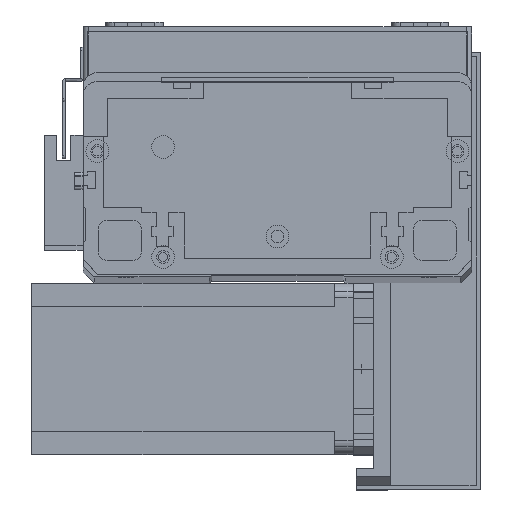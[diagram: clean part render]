
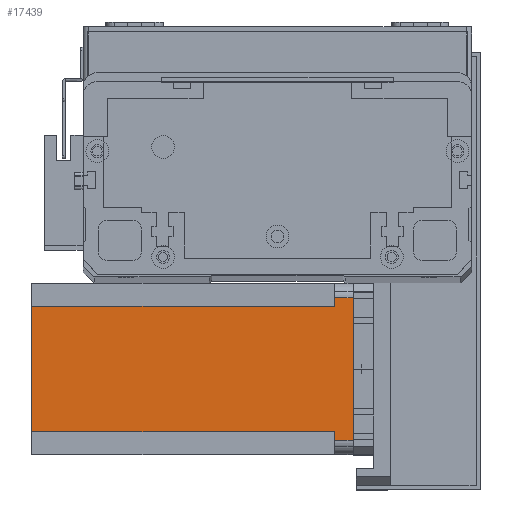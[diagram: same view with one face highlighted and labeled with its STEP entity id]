
A CAD part, top view. The second image highlights one B-rep face of the part: STEP entity #17439.
In plain terms, the highlighted planar face has unit normal (0, 0, 1) as drawn and (0, -1, 0) by its records, which use the part's own axes.
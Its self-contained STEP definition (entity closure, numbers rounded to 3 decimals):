
#257 = VECTOR ( 'NONE', #15410, 1000. ) ;
#527 = LINE ( 'NONE', #2124, #12629 ) ;
#845 = ORIENTED_EDGE ( 'NONE', *, *, #5220, .F. ) ;
#937 = VECTOR ( 'NONE', #1038, 1000. ) ;
#952 = VERTEX_POINT ( 'NONE', #19251 ) ;
#1038 = DIRECTION ( 'NONE',  ( 0., 0., 1. ) ) ;
#1093 = VERTEX_POINT ( 'NONE', #19840 ) ;
#1796 = ORIENTED_EDGE ( 'NONE', *, *, #3086, .F. ) ;
#2124 = CARTESIAN_POINT ( 'NONE',  ( 8., 0., -112.5 ) ) ;
#2369 = CARTESIAN_POINT ( 'NONE',  ( 0., 0., -112.5 ) ) ;
#2913 = DIRECTION ( 'NONE',  ( 1., 0., 0. ) ) ;
#2987 = ORIENTED_EDGE ( 'NONE', *, *, #23403, .F. ) ;
#3086 = EDGE_CURVE ( 'NONE', #11232, #1093, #25508, .T. ) ;
#3751 = DIRECTION ( 'NONE',  ( 0., 0., -1. ) ) ;
#3900 = DIRECTION ( 'NONE',  ( -1., 0., 0. ) ) ;
#4665 = DIRECTION ( 'NONE',  ( 0., 0., -1. ) ) ;
#4761 = ORIENTED_EDGE ( 'NONE', *, *, #16968, .T. ) ;
#4791 = VERTEX_POINT ( 'NONE', #18940 ) ;
#5210 = VERTEX_POINT ( 'NONE', #15945 ) ;
#5220 = EDGE_CURVE ( 'NONE', #952, #4791, #22562, .T. ) ;
#6205 = CARTESIAN_POINT ( 'NONE',  ( 8., 0., -6.5 ) ) ;
#6247 = EDGE_CURVE ( 'NONE', #11654, #1093, #19050, .T. ) ;
#6832 = VECTOR ( 'NONE', #3751, 1000. ) ;
#7521 = ORIENTED_EDGE ( 'NONE', *, *, #24925, .T. ) ;
#8604 = VECTOR ( 'NONE', #2913, 1000. ) ;
#11232 = VERTEX_POINT ( 'NONE', #27202 ) ;
#11654 = VERTEX_POINT ( 'NONE', #24093 ) ;
#11850 = ORIENTED_EDGE ( 'NONE', *, *, #27419, .T. ) ;
#12629 = VECTOR ( 'NONE', #18033, 1000. ) ;
#12732 = EDGE_CURVE ( 'NONE', #5210, #13070, #28999, .T. ) ;
#13070 = VERTEX_POINT ( 'NONE', #21028 ) ;
#13673 = CARTESIAN_POINT ( 'NONE',  ( 52., 0., -112.5 ) ) ;
#13733 = PLANE ( 'NONE',  #18882 ) ;
#14049 = EDGE_LOOP ( 'NONE', ( #4761, #29183, #1796, #7521, #18297, #2987, #11850, #845 ) ) ;
#14614 = FACE_OUTER_BOUND ( 'NONE', #14049, .T. ) ;
#15410 = DIRECTION ( 'NONE',  ( 1., 0., 0. ) ) ;
#15945 = CARTESIAN_POINT ( 'NONE',  ( 8., 0., -6.5 ) ) ;
#16053 = LINE ( 'NONE', #16532, #8604 ) ;
#16253 = VECTOR ( 'NONE', #3900, 1000. ) ;
#16532 = CARTESIAN_POINT ( 'NONE',  ( 52., 0., -6.5 ) ) ;
#16554 = VECTOR ( 'NONE', #18226, 1000. ) ;
#16968 = EDGE_CURVE ( 'NONE', #952, #11654, #16053, .T. ) ;
#17439 = ADVANCED_FACE ( 'NONE', ( #14614 ), #13733, .T. ) ;
#17768 = DIRECTION ( 'NONE',  ( 1., 0., 0. ) ) ;
#18025 = CARTESIAN_POINT ( 'NONE',  ( 0., 0., 0. ) ) ;
#18033 = DIRECTION ( 'NONE',  ( 0., 0., 1. ) ) ;
#18226 = DIRECTION ( 'NONE',  ( 0., 0., -1. ) ) ;
#18285 = DIRECTION ( 'NONE',  ( 0., -1., 0. ) ) ;
#18297 = ORIENTED_EDGE ( 'NONE', *, *, #12732, .F. ) ;
#18666 = VERTEX_POINT ( 'NONE', #24812 ) ;
#18882 = AXIS2_PLACEMENT_3D ( 'NONE', #2369, #18285, #4665 ) ;
#18940 = CARTESIAN_POINT ( 'NONE',  ( 52., 0., -112.5 ) ) ;
#19050 = LINE ( 'NONE', #28232, #937 ) ;
#19251 = CARTESIAN_POINT ( 'NONE',  ( 52., 0., -6.5 ) ) ;
#19624 = CARTESIAN_POINT ( 'NONE',  ( 5., 0., -112.5 ) ) ;
#19840 = CARTESIAN_POINT ( 'NONE',  ( 55., 0., 0. ) ) ;
#21028 = CARTESIAN_POINT ( 'NONE',  ( 5., 0., -6.5 ) ) ;
#22562 = LINE ( 'NONE', #13673, #16554 ) ;
#23403 = EDGE_CURVE ( 'NONE', #18666, #5210, #527, .T. ) ;
#24093 = CARTESIAN_POINT ( 'NONE',  ( 55., 0., -6.5 ) ) ;
#24191 = LINE ( 'NONE', #19624, #6832 ) ;
#24782 = VECTOR ( 'NONE', #17768, 1000. ) ;
#24812 = CARTESIAN_POINT ( 'NONE',  ( 8., 0., -112.5 ) ) ;
#24925 = EDGE_CURVE ( 'NONE', #11232, #13070, #24191, .T. ) ;
#25508 = LINE ( 'NONE', #18025, #24782 ) ;
#26789 = CARTESIAN_POINT ( 'NONE',  ( 0., 0., -112.5 ) ) ;
#27202 = CARTESIAN_POINT ( 'NONE',  ( 5., 0., 0. ) ) ;
#27235 = LINE ( 'NONE', #26789, #257 ) ;
#27419 = EDGE_CURVE ( 'NONE', #18666, #4791, #27235, .T. ) ;
#28232 = CARTESIAN_POINT ( 'NONE',  ( 55., 0., -112.5 ) ) ;
#28999 = LINE ( 'NONE', #6205, #16253 ) ;
#29183 = ORIENTED_EDGE ( 'NONE', *, *, #6247, .T. ) ;
